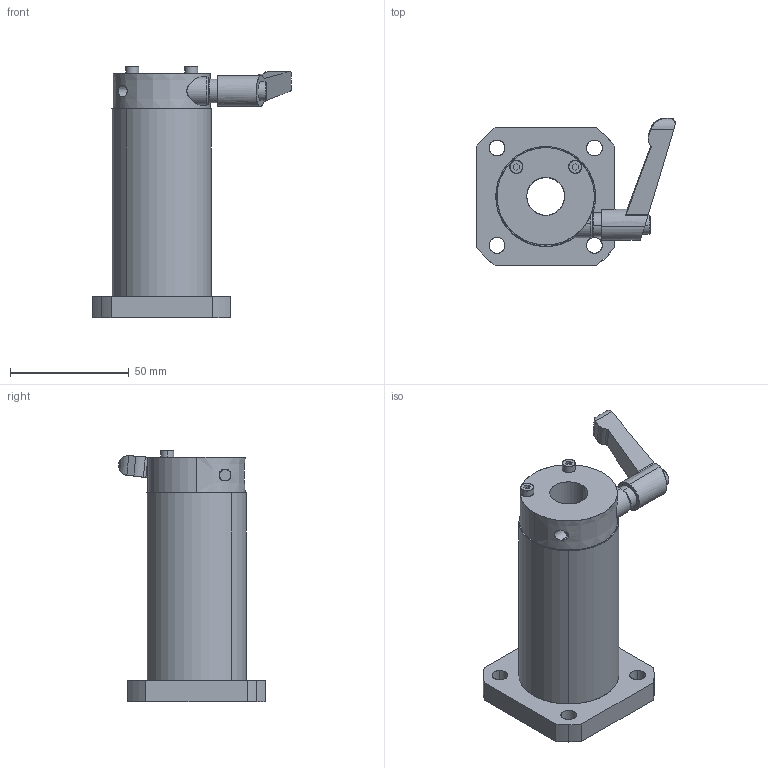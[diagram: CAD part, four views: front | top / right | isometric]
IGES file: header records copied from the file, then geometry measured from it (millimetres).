
Start section: SolidWorks IGES file using analytic representation for surfaces
Global section: file name: C:\Users\yamad\Desktop\IGES\LFWK16-C.IGS; native system: SolidWorks 2019; preprocessor: SolidWorks 2019; author: yamad; date: 230626.163636; units: millimetre
Bounding box: 83.5 x 61.81 x 106 mm (x, y, z)
Surface area: 36306.7 mm2 (no closed solid volume)
Topology: 0 solids, 0 shells, 196 faces, 4228 edges, 4228 vertices
Faces by surface type: bspline 106, revolution 90
